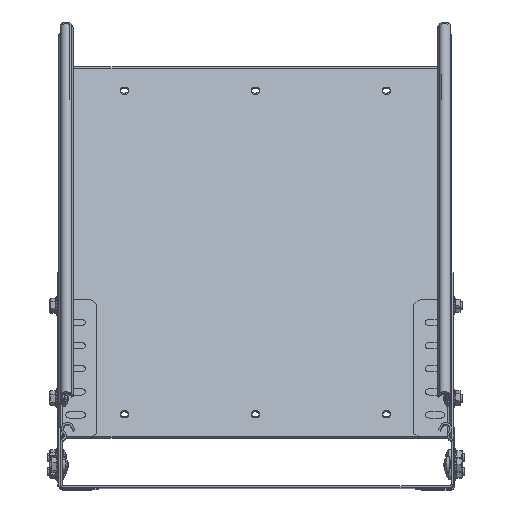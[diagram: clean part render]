
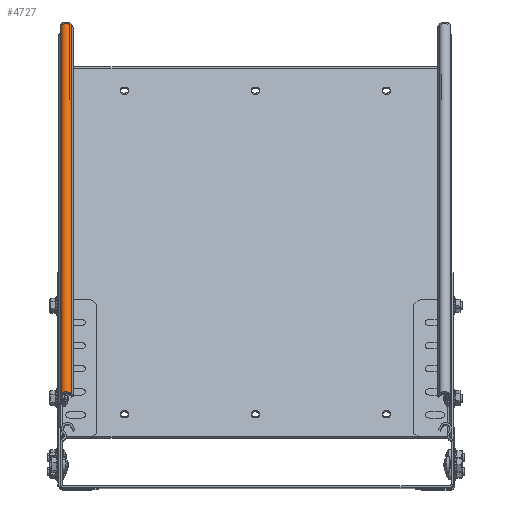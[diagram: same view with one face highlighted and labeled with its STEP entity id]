
A CAD part, top view. The second image highlights one B-rep face of the part: STEP entity #4727.
In plain terms, the highlighted cylindrical face has radius 4.5 mm (diameter 9 mm), a partial arc.
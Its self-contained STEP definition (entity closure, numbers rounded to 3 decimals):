
#94 = ORIENTED_EDGE ( 'NONE', *, *, #283, .F. ) ;
#207 = EDGE_CURVE ( 'NONE', #6425, #5825, #1267, .T. ) ;
#225 = ORIENTED_EDGE ( 'NONE', *, *, #6185, .F. ) ;
#283 = EDGE_CURVE ( 'NONE', #7640, #3056, #1019, .T. ) ;
#520 = ORIENTED_EDGE ( 'NONE', *, *, #2715, .T. ) ;
#762 = ORIENTED_EDGE ( 'NONE', *, *, #207, .T. ) ;
#1019 = CIRCLE ( 'NONE', #3108, 4.5 ) ;
#1267 = CIRCLE ( 'NONE', #3205, 4.5 ) ;
#2021 = CYLINDRICAL_SURFACE ( 'NONE', #10852, 4.5 ) ;
#2042 = DIRECTION ( 'NONE',  ( 0., 0., -1. ) ) ;
#2715 = EDGE_CURVE ( 'NONE', #5825, #3056, #7913, .T. ) ;
#2818 = CARTESIAN_POINT ( 'NONE',  ( -140.529, 47.618, -200. ) ) ;
#3056 = VERTEX_POINT ( 'NONE', #2818 ) ;
#3074 = VECTOR ( 'NONE', #4526, 1000. ) ;
#3100 = CARTESIAN_POINT ( 'NONE',  ( -149., 45.5, 200. ) ) ;
#3108 = AXIS2_PLACEMENT_3D ( 'NONE', #4194, #10437, #5150 ) ;
#3205 = AXIS2_PLACEMENT_3D ( 'NONE', #10357, #7561, #7472 ) ;
#4194 = CARTESIAN_POINT ( 'NONE',  ( -144.5, 45.5, -200. ) ) ;
#4490 = CARTESIAN_POINT ( 'NONE',  ( -140.529, 47.618, 200. ) ) ;
#4526 = DIRECTION ( 'NONE',  ( 0., 0., -1. ) ) ;
#4727 = ADVANCED_FACE ( 'NONE', ( #9114 ), #2021, .T. ) ;
#5150 = DIRECTION ( 'NONE',  ( -1., 0., 0. ) ) ;
#5339 = CARTESIAN_POINT ( 'NONE',  ( -149., 45.5, -200. ) ) ;
#5406 = EDGE_LOOP ( 'NONE', ( #225, #762, #520, #94 ) ) ;
#5661 = DIRECTION ( 'NONE',  ( 0., 0., -1. ) ) ;
#5825 = VERTEX_POINT ( 'NONE', #8180 ) ;
#5952 = VECTOR ( 'NONE', #2042, 1000. ) ;
#6185 = EDGE_CURVE ( 'NONE', #6425, #7640, #6645, .T. ) ;
#6425 = VERTEX_POINT ( 'NONE', #3100 ) ;
#6645 = LINE ( 'NONE', #10878, #5952 ) ;
#7063 = DIRECTION ( 'NONE',  ( -1., 0., 0. ) ) ;
#7472 = DIRECTION ( 'NONE',  ( -1., 0., 0. ) ) ;
#7561 = DIRECTION ( 'NONE',  ( 0., 0., -1. ) ) ;
#7640 = VERTEX_POINT ( 'NONE', #5339 ) ;
#7913 = LINE ( 'NONE', #4490, #3074 ) ;
#8180 = CARTESIAN_POINT ( 'NONE',  ( -140.529, 47.618, 200. ) ) ;
#9114 = FACE_OUTER_BOUND ( 'NONE', #5406, .T. ) ;
#9948 = CARTESIAN_POINT ( 'NONE',  ( -144.5, 45.5, 200. ) ) ;
#10357 = CARTESIAN_POINT ( 'NONE',  ( -144.5, 45.5, 200. ) ) ;
#10437 = DIRECTION ( 'NONE',  ( 0., 0., -1. ) ) ;
#10852 = AXIS2_PLACEMENT_3D ( 'NONE', #9948, #5661, #7063 ) ;
#10878 = CARTESIAN_POINT ( 'NONE',  ( -149., 45.5, 200. ) ) ;
